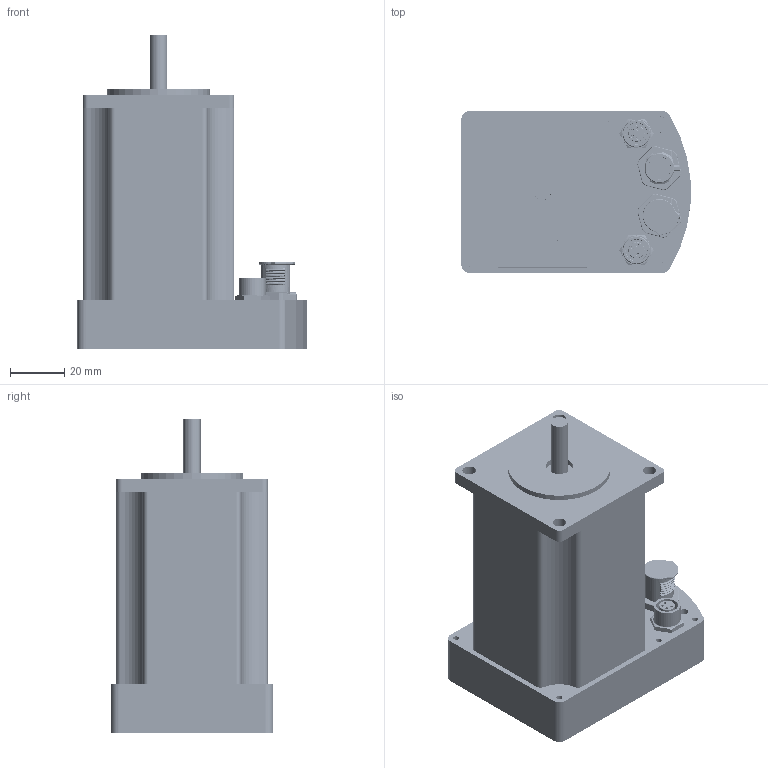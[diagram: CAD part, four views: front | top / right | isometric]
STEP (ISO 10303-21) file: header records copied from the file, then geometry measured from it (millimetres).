
FILE_DESCRIPTION (( 'STEP AP214' ), '1' );
FILE_NAME ('iMOT233S TM-CAT.STEP', '2025-02-03T15:49:14', ( '' ), ( '' ), 'SwSTEP 2.0', 'SolidWorks 2017', '' );
FILE_SCHEMA (( 'AUTOMOTIVE_DESIGN' ));
Length unit declared in the file: millimetre
Products named in the file (8): iMOT233S TM-CAT; P064.710.1723; P036.752.0012 iMOT23 Base Plate 10A_D‚faut; P036.710.0006.01A - iMOT36x TM ECAT; P036.752.0003 iMOT23 Cover 01A_D‚faut; DOP; Ghidaj; P036  IS23 Motor-233_D‚faut
Assembly tree (7 placements, depth 2):
  iMOT233S TM-CAT
    P036.710.0006.01A - iMOT36x TM ECAT
    P064.710.1723
    Ghidaj
    P036.752.0012 iMOT23 Base Plate 10A_D‚faut
    P036  IS23 Motor-233_D‚faut
    DOP
    P036.752.0003 iMOT23 Cover 01A_D‚faut
Bounding box: 84.83 x 60 x 116 mm (x, y, z)
Volume: 244009.7 mm3; surface area: 81807 mm2
Topology: 300 solids, 410 shells, 9025 faces, 22967 edges, 14895 vertices
Faces by surface type: plane 5376, cylinder 2524, bspline 592, torus 239, cone 154, sphere 140
Entity records: 400850 total; most frequent: CARTESIAN_POINT 86983, ORIENTED_EDGE 45452, DIRECTION 42983, EDGE_CURVE 22774, LINE 15505, VECTOR 15505, VERTEX_POINT 14837, AXIS2_PLACEMENT_3D 13739
